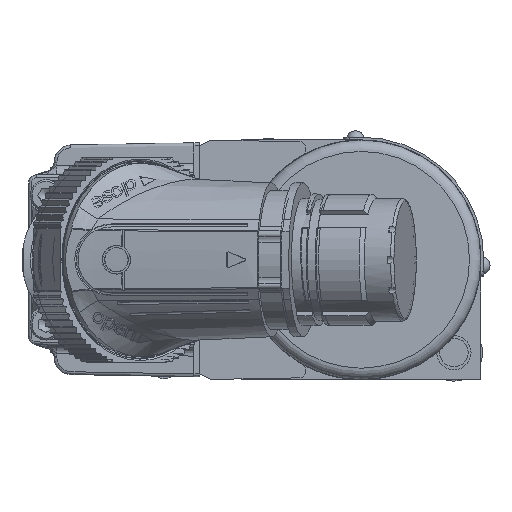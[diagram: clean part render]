
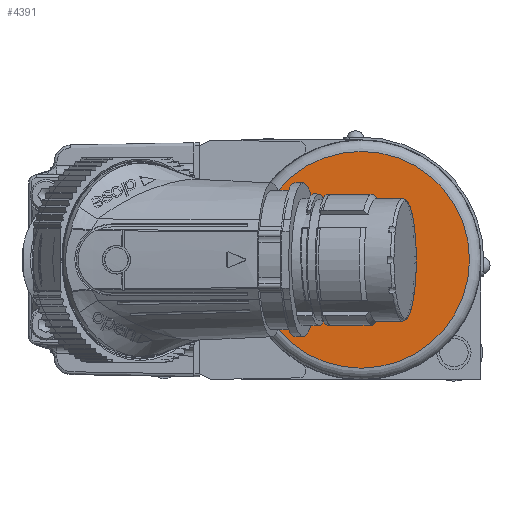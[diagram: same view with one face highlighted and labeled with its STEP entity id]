
A CAD part, left-side view. The second image highlights one B-rep face of the part: STEP entity #4391.
In plain terms, the highlighted planar face has unit normal (-1, 0, 0).
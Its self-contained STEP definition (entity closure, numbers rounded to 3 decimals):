
#4391 = ADVANCED_FACE ( 'NONE', ( #41610 ), #49950, .T. ) ;
#6067 = DIRECTION ( 'NONE',  ( 0., 0., 1. ) ) ;
#9851 = VERTEX_POINT ( 'NONE', #59695 ) ;
#36004 = EDGE_LOOP ( 'NONE', ( #85329 ) ) ;
#41610 = FACE_OUTER_BOUND ( 'NONE', #36004, .T. ) ;
#43561 = DIRECTION ( 'NONE',  ( 0., 0., 1. ) ) ;
#44284 = DIRECTION ( 'NONE',  ( -1., 0., 0. ) ) ;
#44969 = AXIS2_PLACEMENT_3D ( 'NONE', #89471, #48029, #6067 ) ;
#48029 = DIRECTION ( 'NONE',  ( -1., 0., 0. ) ) ;
#49950 = PLANE ( 'NONE',  #64684 ) ;
#56646 = CARTESIAN_POINT ( 'NONE',  ( -279., 0., 0. ) ) ;
#59695 = CARTESIAN_POINT ( 'NONE',  ( -279., 0., 19. ) ) ;
#64684 = AXIS2_PLACEMENT_3D ( 'NONE', #56646, #44284, #43561 ) ;
#71600 = EDGE_CURVE ( 'NONE', #9851, #9851, #73652, .T. ) ;
#73652 = CIRCLE ( 'NONE', #44969, 19. ) ;
#85329 = ORIENTED_EDGE ( 'NONE', *, *, #71600, .T. ) ;
#89471 = CARTESIAN_POINT ( 'NONE',  ( -279., 0., 0. ) ) ;
